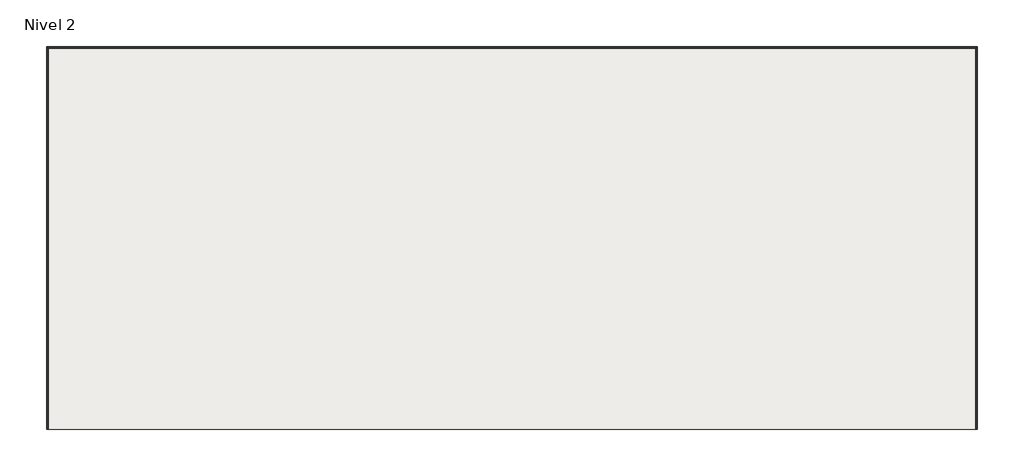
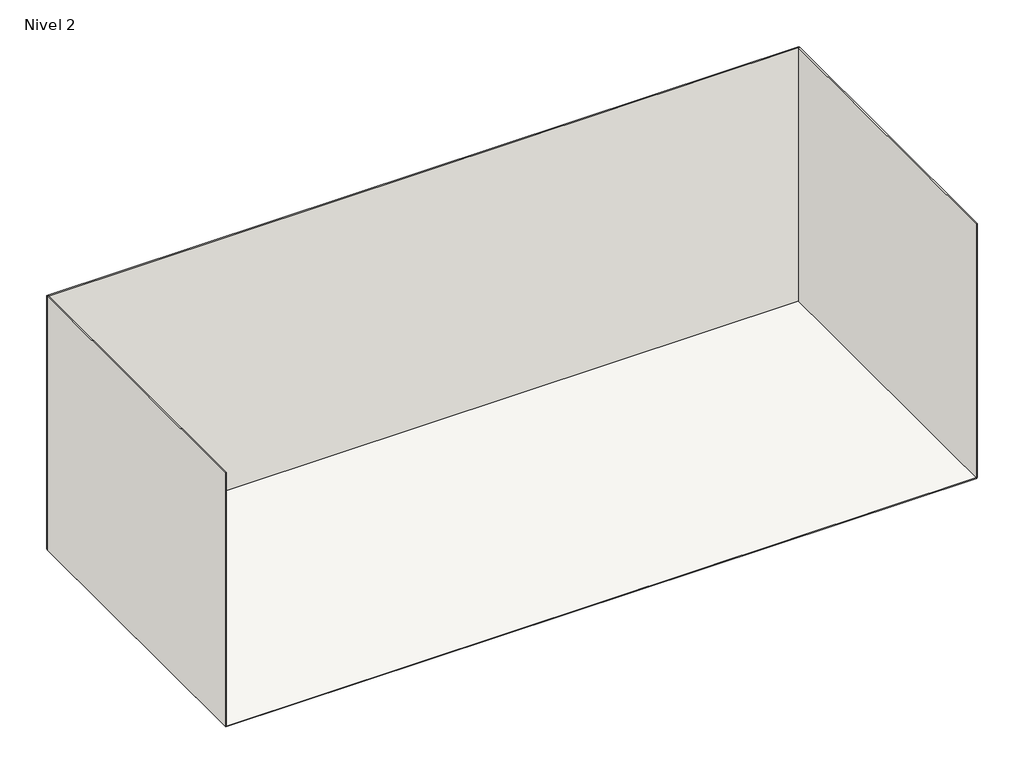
# One storey, incomplete: 3 walls, 1 slab.
"""IFC4 building model written with IfcOpenShell, lengths in millimetres."""

from ifc_helpers import new_model, si_unit, frame, origin, place, context, project, spatial, polyline, outline, extrude, faceted_brep, element, save

model = new_model("IFC4")

# Units and contexts
model_context = context("Model", 3, world=origin())
ifc_project = project(units=[si_unit("LENGTHUNIT", "METRE", prefix="MILLI")], contexts=[model_context])

# Site, building, storey
site = spatial("IfcSite", under=ifc_project)
building = spatial("IfcBuilding", under=site)
storey = spatial("IfcBuildingStorey", under=building, Name="Nivel 2", Elevation=4000.0)

# Slab
placement = place(None, origin())
element("IfcSlab", 1, ObjectType="Genérico 150 mm", at=placement, inside=storey, context=model_context, shape_type="SweptSolid", body=[
    extrude(outline(polyline([(73179.5577631, 8548.4136988), (73179.5577631, -37451.5863012), (-38820.4422369, -37451.5863012), (-38820.4422369, 8548.4136988), (73179.5577631, 8548.4136988)])), frame((0.0, 0.0, 3850.0), z_axis=(0.0, 0.0, 1.0), x_axis=(1.0, 0.0, 0.0)), (0.0, 0.0, 1.0), 150.0),
])

# Walls
element("IfcWall", 2, ObjectType="Genérico - 200 mm", at=placement, inside=storey, context=model_context, shape_type="Brep", body=[
    faceted_brep([(73279.5577631, 8648.4136988, 4000.0), (-38920.4422369, 8648.4136988, 4000.0), (-38920.4422369, 8648.4136988, 44000.0), (73279.5577631, 8648.4136988, 44000.0), (73279.5577631, 8448.4136988, 4000.0), (73279.5577631, 8448.4136988, 44000.0), (73079.5577631, 8448.4136988, 44000.0), (-38720.4422369, 8448.4136988, 44000.0), (-38920.4422369, 8448.4136988, 44000.0), (-38920.4422369, 8448.4136988, 4000.0), (-38720.4422369, 8448.4136988, 4000.0), (73079.5577631, 8448.4136988, 4000.0)], [[[0, 1, 2, 3]], [[4, 5, 6, 7, 8, 9, 10, 11]], [[1, 0, 4, 11, 10, 9]], [[3, 2, 8, 7, 6, 5]], [[0, 3, 5, 4]], [[2, 1, 9, 8]]]),
])
element("IfcWall", 3, ObjectType="Genérico - 200 mm", at=placement, inside=storey, context=model_context, shape_type="SweptSolid", body=[
    extrude(outline(polyline([(73079.5577631, -37451.5863012), (73079.5577631, 8448.4136988), (73279.5577631, 8448.4136988), (73279.5577631, -37451.5863012), (73079.5577631, -37451.5863012)])), frame((0.0, 0.0, 4000.0), z_axis=(0.0, 0.0, 1.0), x_axis=(1.0, 0.0, 0.0)), (0.0, 0.0, 1.0), 40000.0),
])
element("IfcWall", 4, ObjectType="Genérico - 200 mm", at=placement, inside=storey, context=model_context, shape_type="SweptSolid", body=[
    extrude(outline(polyline([(-38920.4422369, -37451.5863012), (-38920.4422369, 8448.4136988), (-38720.4422369, 8448.4136988), (-38720.4422369, -37451.5863012), (-38920.4422369, -37451.5863012)])), frame((0.0, 0.0, 4000.0), z_axis=(0.0, 0.0, 1.0), x_axis=(1.0, 0.0, 0.0)), (0.0, 0.0, 1.0), 40000.0),
])

save(model, "model.ifc")
